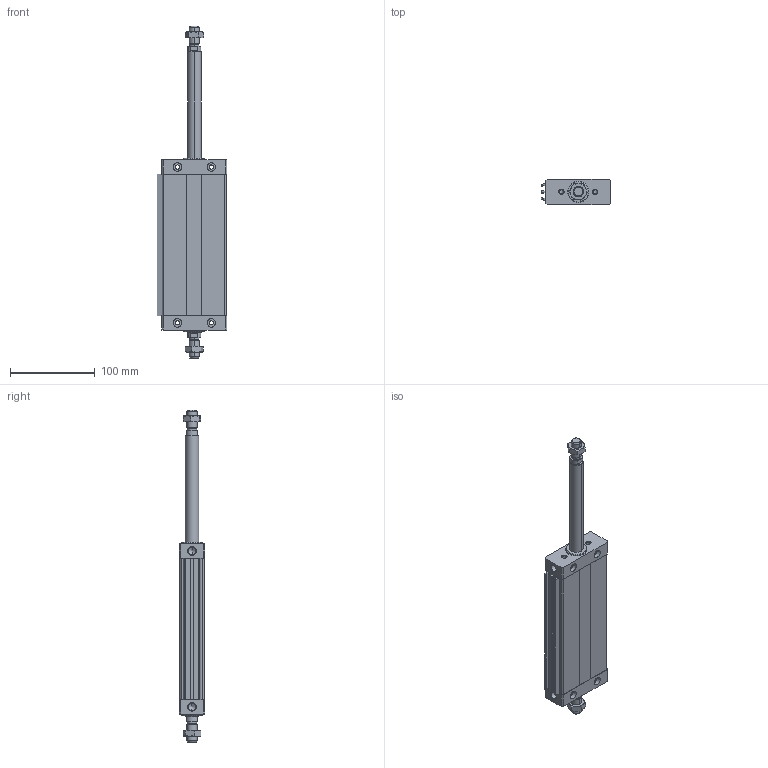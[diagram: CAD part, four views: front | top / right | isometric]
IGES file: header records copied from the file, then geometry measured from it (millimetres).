
Global section: file name: No Iges File Name specified; native system: Autodesk Inventor 2011; preprocessor: AutoDesk Inventor Iges Exporter R2011; author: airolcr1; date: 20101213.153159; units: millimetre
Bounding box: 82.5 x 30 x 392 mm (x, y, z)
Volume: 346055.8 mm3; surface area: 119656.9 mm2
Topology: 6 solids, 6 shells, 276 faces, 652 edges, 396 vertices
Faces by surface type: bspline 110, plane 98, cone 36, cylinder 18, revolution 14
